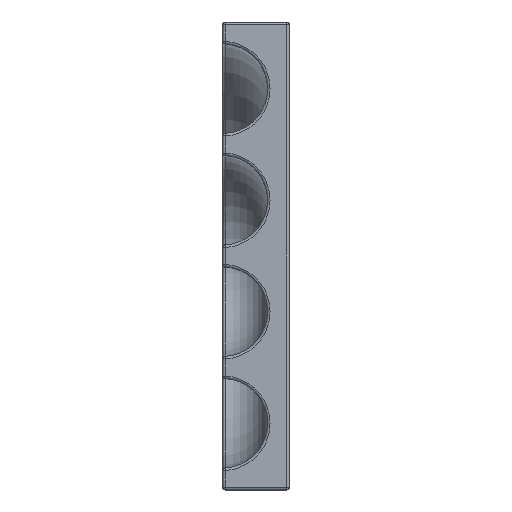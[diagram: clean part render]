
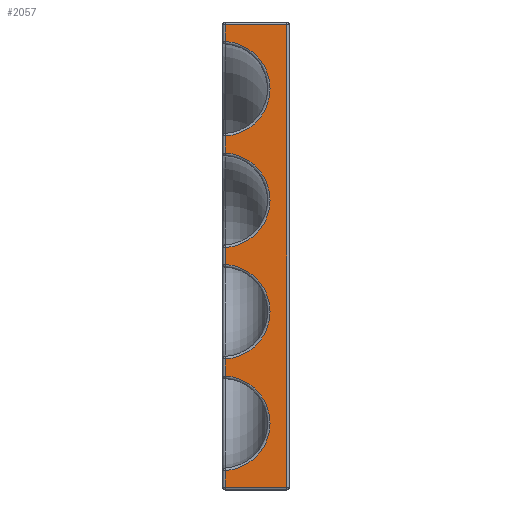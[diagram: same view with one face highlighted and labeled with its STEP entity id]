
A CAD part, left-side view. The second image highlights one B-rep face of the part: STEP entity #2057.
In plain terms, the highlighted planar face has unit normal (-1, 0, 0).
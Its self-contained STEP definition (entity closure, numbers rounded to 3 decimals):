
#3 = VERTEX_POINT ( 'NONE', #805 ) ;
#29 = VECTOR ( 'NONE', #1010, 1000. ) ;
#82 = AXIS2_PLACEMENT_3D ( 'NONE', #985, #3397, #2660 ) ;
#96 = DIRECTION ( 'NONE',  ( 0., 0., -1. ) ) ;
#118 = VERTEX_POINT ( 'NONE', #2271 ) ;
#126 = DIRECTION ( 'NONE',  ( 0., -1., 0. ) ) ;
#131 = DIRECTION ( 'NONE',  ( 0., 0., -1. ) ) ;
#183 = FACE_OUTER_BOUND ( 'NONE', #772, .T. ) ;
#240 = LINE ( 'NONE', #3415, #2526 ) ;
#247 = ORIENTED_EDGE ( 'NONE', *, *, #1798, .T. ) ;
#255 = CIRCLE ( 'NONE', #3306, 18.5 ) ;
#315 = VERTEX_POINT ( 'NONE', #2787 ) ;
#358 = EDGE_CURVE ( 'NONE', #118, #554, #1413, .T. ) ;
#434 = ORIENTED_EDGE ( 'NONE', *, *, #2164, .T. ) ;
#443 = CARTESIAN_POINT ( 'NONE',  ( -91.5, 25., -90.5 ) ) ;
#554 = VERTEX_POINT ( 'NONE', #2190 ) ;
#590 = CIRCLE ( 'NONE', #82, 18.5 ) ;
#638 = DIRECTION ( 'NONE',  ( 1., 0., 0. ) ) ;
#730 = ORIENTED_EDGE ( 'NONE', *, *, #3256, .T. ) ;
#748 = LINE ( 'NONE', #3387, #29 ) ;
#772 = EDGE_LOOP ( 'NONE', ( #3046, #2421, #906, #1483, #1637, #2540, #1075, #3194, #247, #434, #730, #1942 ) ) ;
#790 = CARTESIAN_POINT ( 'NONE',  ( -91.5, 25., 40.273 ) ) ;
#793 = CARTESIAN_POINT ( 'NONE',  ( -91.5, 25., -46.927 ) ) ;
#805 = CARTESIAN_POINT ( 'NONE',  ( -91.5, 25., 3.327 ) ) ;
#829 = VERTEX_POINT ( 'NONE', #2892 ) ;
#849 = EDGE_CURVE ( 'NONE', #1567, #2975, #240, .T. ) ;
#906 = ORIENTED_EDGE ( 'NONE', *, *, #1487, .T. ) ;
#929 = LINE ( 'NONE', #1400, #2008 ) ;
#957 = LINE ( 'NONE', #443, #1091 ) ;
#985 = CARTESIAN_POINT ( 'NONE',  ( -91.5, 26., -21.8 ) ) ;
#1000 = VECTOR ( 'NONE', #3418, 1000. ) ;
#1009 = CIRCLE ( 'NONE', #1725, 18.5 ) ;
#1010 = DIRECTION ( 'NONE',  ( 0., 0., 1. ) ) ;
#1075 = ORIENTED_EDGE ( 'NONE', *, *, #1955, .T. ) ;
#1076 = LINE ( 'NONE', #3143, #1000 ) ;
#1091 = VECTOR ( 'NONE', #1986, 1000. ) ;
#1129 = LINE ( 'NONE', #3292, #2960 ) ;
#1311 = LINE ( 'NONE', #2114, #3336 ) ;
#1341 = EDGE_CURVE ( 'NONE', #2875, #315, #957, .T. ) ;
#1400 = CARTESIAN_POINT ( 'NONE',  ( -91.5, 26., -90.5 ) ) ;
#1413 = CIRCLE ( 'NONE', #2757, 18.5 ) ;
#1483 = ORIENTED_EDGE ( 'NONE', *, *, #849, .T. ) ;
#1487 = EDGE_CURVE ( 'NONE', #3427, #1567, #748, .T. ) ;
#1567 = VERTEX_POINT ( 'NONE', #1895 ) ;
#1614 = EDGE_CURVE ( 'NONE', #1796, #2875, #255, .T. ) ;
#1637 = ORIENTED_EDGE ( 'NONE', *, *, #2995, .T. ) ;
#1725 = AXIS2_PLACEMENT_3D ( 'NONE', #2331, #2611, #3395 ) ;
#1796 = VERTEX_POINT ( 'NONE', #793 ) ;
#1798 = EDGE_CURVE ( 'NONE', #3, #2200, #1076, .T. ) ;
#1836 = CARTESIAN_POINT ( 'NONE',  ( -91.5, 25., -3.327 ) ) ;
#1891 = CARTESIAN_POINT ( 'NONE',  ( -91.5, 25., 40.273 ) ) ;
#1895 = CARTESIAN_POINT ( 'NONE',  ( -91.5, 1., 90.5 ) ) ;
#1942 = ORIENTED_EDGE ( 'NONE', *, *, #1614, .T. ) ;
#1955 = EDGE_CURVE ( 'NONE', #554, #3260, #2748, .T. ) ;
#1986 = DIRECTION ( 'NONE',  ( 0., 0., -1. ) ) ;
#2008 = VECTOR ( 'NONE', #126, 1000. ) ;
#2012 = PLANE ( 'NONE',  #3436 ) ;
#2057 = ADVANCED_FACE ( 'NONE', ( #183 ), #2012, .F. ) ;
#2100 = DIRECTION ( 'NONE',  ( 0., 1., 0. ) ) ;
#2114 = CARTESIAN_POINT ( 'NONE',  ( -91.5, 25., -46.927 ) ) ;
#2164 = EDGE_CURVE ( 'NONE', #2200, #829, #590, .T. ) ;
#2190 = CARTESIAN_POINT ( 'NONE',  ( -91.5, 25., 46.927 ) ) ;
#2200 = VERTEX_POINT ( 'NONE', #1836 ) ;
#2223 = DIRECTION ( 'NONE',  ( 0., 0., -1. ) ) ;
#2262 = DIRECTION ( 'NONE',  ( 1., 0., 0. ) ) ;
#2271 = CARTESIAN_POINT ( 'NONE',  ( -91.5, 25., 83.873 ) ) ;
#2331 = CARTESIAN_POINT ( 'NONE',  ( -91.5, 26., 21.8 ) ) ;
#2421 = ORIENTED_EDGE ( 'NONE', *, *, #2941, .T. ) ;
#2453 = VECTOR ( 'NONE', #2223, 1000. ) ;
#2456 = CARTESIAN_POINT ( 'NONE',  ( -91.5, 25., 90.5 ) ) ;
#2475 = DIRECTION ( 'NONE',  ( 1., 0., 0. ) ) ;
#2526 = VECTOR ( 'NONE', #2100, 1000. ) ;
#2540 = ORIENTED_EDGE ( 'NONE', *, *, #358, .T. ) ;
#2611 = DIRECTION ( 'NONE',  ( 1., 0., 0. ) ) ;
#2660 = DIRECTION ( 'NONE',  ( 0., 0., -1. ) ) ;
#2729 = DIRECTION ( 'NONE',  ( 0., 0., -1. ) ) ;
#2735 = CARTESIAN_POINT ( 'NONE',  ( -91.5, 26., -65.4 ) ) ;
#2748 = LINE ( 'NONE', #1891, #2453 ) ;
#2757 = AXIS2_PLACEMENT_3D ( 'NONE', #3266, #2262, #131 ) ;
#2787 = CARTESIAN_POINT ( 'NONE',  ( -91.5, 25., -90.5 ) ) ;
#2808 = CARTESIAN_POINT ( 'NONE',  ( -91.5, 25., -83.873 ) ) ;
#2820 = CARTESIAN_POINT ( 'NONE',  ( -91.5, 26., 91.5 ) ) ;
#2865 = CARTESIAN_POINT ( 'NONE',  ( -91.5, 1., -90.5 ) ) ;
#2875 = VERTEX_POINT ( 'NONE', #2808 ) ;
#2892 = CARTESIAN_POINT ( 'NONE',  ( -91.5, 25., -40.273 ) ) ;
#2941 = EDGE_CURVE ( 'NONE', #315, #3427, #929, .T. ) ;
#2960 = VECTOR ( 'NONE', #2729, 1000. ) ;
#2975 = VERTEX_POINT ( 'NONE', #2456 ) ;
#2995 = EDGE_CURVE ( 'NONE', #2975, #118, #1129, .T. ) ;
#3046 = ORIENTED_EDGE ( 'NONE', *, *, #1341, .T. ) ;
#3058 = EDGE_CURVE ( 'NONE', #3260, #3, #1009, .T. ) ;
#3143 = CARTESIAN_POINT ( 'NONE',  ( -91.5, 25., -3.327 ) ) ;
#3171 = DIRECTION ( 'NONE',  ( 0., 0., -1. ) ) ;
#3194 = ORIENTED_EDGE ( 'NONE', *, *, #3058, .T. ) ;
#3256 = EDGE_CURVE ( 'NONE', #829, #1796, #1311, .T. ) ;
#3260 = VERTEX_POINT ( 'NONE', #790 ) ;
#3266 = CARTESIAN_POINT ( 'NONE',  ( -91.5, 26., 65.4 ) ) ;
#3292 = CARTESIAN_POINT ( 'NONE',  ( -91.5, 25., 83.873 ) ) ;
#3306 = AXIS2_PLACEMENT_3D ( 'NONE', #2735, #2475, #96 ) ;
#3336 = VECTOR ( 'NONE', #3171, 1000. ) ;
#3347 = DIRECTION ( 'NONE',  ( 0., 0., -1. ) ) ;
#3387 = CARTESIAN_POINT ( 'NONE',  ( -91.5, 1., 91.5 ) ) ;
#3395 = DIRECTION ( 'NONE',  ( 0., 0., -1. ) ) ;
#3397 = DIRECTION ( 'NONE',  ( 1., 0., 0. ) ) ;
#3415 = CARTESIAN_POINT ( 'NONE',  ( -91.5, 26., 90.5 ) ) ;
#3418 = DIRECTION ( 'NONE',  ( 0., 0., -1. ) ) ;
#3427 = VERTEX_POINT ( 'NONE', #2865 ) ;
#3436 = AXIS2_PLACEMENT_3D ( 'NONE', #2820, #638, #3347 ) ;
